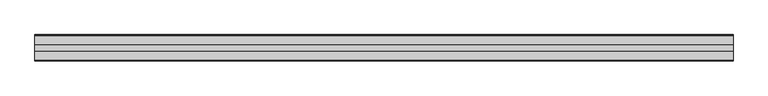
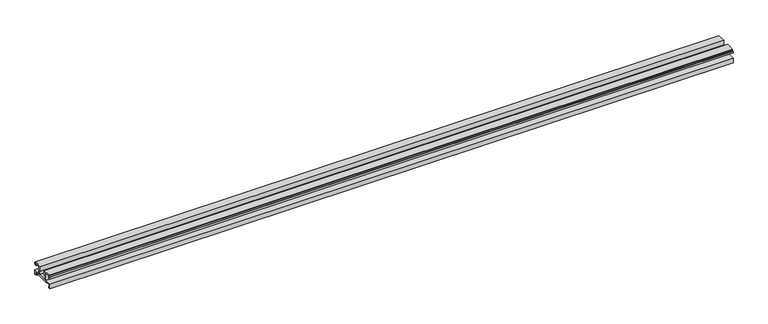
"""IFC4 building model written with IfcOpenShell, lengths in millimetres: proxy geometry, Weiku - Montante - Acoplamento vidro : Weiku - Montante - Acoplamento vidro."""

from ifc_helpers import new_model, si_unit, frame, origin, place, context, project, spatial, polyline, outline, extrude, source, transform, mapped, element, save


def generic_models_d430dc65(model_context):
    return source(origin(), model_context, "Body", "SweptSolid", [
        extrude(outline(polyline([(35.405, 5.1494), (12.495, 5.1494), (12.495, 6.8004), (2.159, 6.8004), (2.159, 2.6094), (4.0216, 2.6094), (4.0216, 0.0), (-0.0014508, 0.0), (-0.0014508, 8.79), (12.954, 8.79), (12.954, 23.3104), (4.3603, 23.3104), (4.3603, 19.204), (0.0, 19.204), (0.0, 22.8024), (0.9736, 22.8024), (0.9736, 20.3894), (3.175, 20.3894), (3.175, 23.9454), (2.3735496, 23.9454), (2.3735496, 25.3), (17.4836, 25.3), (17.4836, 16.283), (15.4516, 16.283), (15.4516, 8.8), (32.4484, 8.8), (32.4484, 16.283), (30.4164, 16.283), (30.4164, 25.3), (45.5264504, 25.3), (45.5264504, 23.9454), (44.725, 23.9454), (44.725, 20.3894), (46.9264, 20.3894), (46.9264, 22.8024), (47.9, 22.8024), (47.9, 19.204), (43.5397, 19.204), (43.5397, 23.3104), (34.946, 23.3104), (34.946, 8.79), (47.9014508, 8.79), (47.9014508, 0.0), (43.8784, 0.0), (43.8784, 2.6094), (45.741, 2.6094), (45.741, 6.8004), (35.405, 6.8004), (35.405, 5.1494)])), frame((-630.675, 0.0, 0.0), z_axis=(1.0, 0.0, 0.0), x_axis=(0.0, 1.0, 0.0)), (0.0, 0.0, 1.0), 1261.35),
    ])


if __name__ == "__main__":
    model = new_model("IFC4")
    model_context = context("Model", 3, world=origin())
    ifc_project = project(units=[si_unit("LENGTHUNIT", "METRE", prefix="MILLI")], contexts=[model_context])
    site = spatial("IfcSite", under=ifc_project)
    building = spatial("IfcBuilding", under=site)
    placement = place(None, origin())
    generic_models_shape = generic_models_d430dc65(model_context)
    element("IfcBuildingElementProxy", 1, Name="Weiku - Montante - Acoplamento vidro : Weiku - Montante - Acoplamento vidro", ObjectType="Weiku - Montante - Acoplamento vidro : Weiku - Montante - Acoplamento vidro", at=placement, inside=building, context=model_context, shape_type="MappedRepresentation", body=[
        mapped(generic_models_shape, transform((0.0, 0.0, 0.0), x_axis=(1.0, 0.0, 0.0), y_axis=(0.0, 1.0, 0.0), z_axis=(0.0, 0.0, 1.0))),
    ])
    save(model, "model.ifc")
